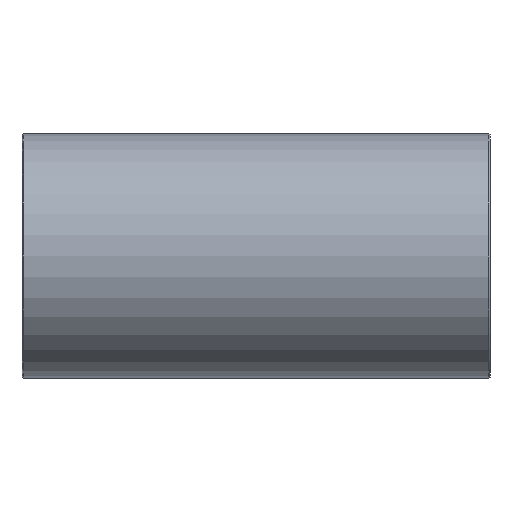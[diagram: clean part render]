
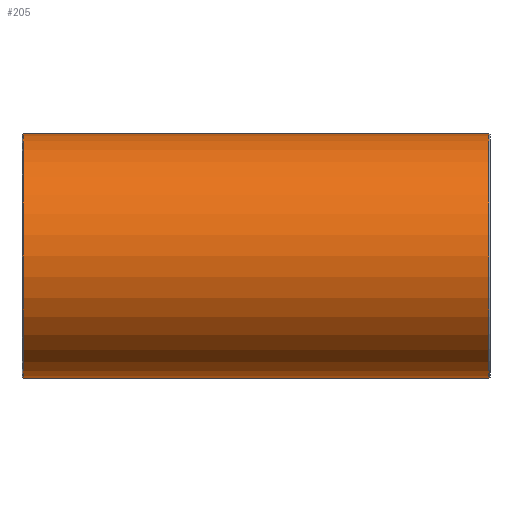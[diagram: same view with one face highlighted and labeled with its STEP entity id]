
A CAD part, front view. The second image highlights one B-rep face of the part: STEP entity #205.
In plain terms, the highlighted cylindrical face has radius 19.85 mm (diameter 39.7 mm), a full revolution.
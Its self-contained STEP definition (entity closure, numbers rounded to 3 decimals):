
#73=CARTESIAN_POINT('',(37.8,19.85,0.));
#74=VERTEX_POINT('',#73);
#75=CARTESIAN_POINT('',(37.8,0.0,0.0));
#76=DIRECTION('',(1.0,0.0,0.0));
#77=DIRECTION('',(0.0,-1.0,0.0));
#78=AXIS2_PLACEMENT_3D('',#75,#76,#77);
#79=CIRCLE('',#78,19.85);
#80=EDGE_CURVE('',#74,#74,#79,.T.);
#116=CARTESIAN_POINT('',(0.,0.0,0.0));
#117=DIRECTION('',(1.0,0.0,0.0));
#118=DIRECTION('',(0.0,1.0,0.0));
#119=AXIS2_PLACEMENT_3D('',#116,#117,#118);
#120=CYLINDRICAL_SURFACE('',#119,19.85);
#121=CARTESIAN_POINT('',(-37.8,19.85,0.));
#122=VERTEX_POINT('',#121);
#123=CARTESIAN_POINT('',(-37.8,0.0,0.0));
#124=DIRECTION('',(-1.0,0.0,0.0));
#125=DIRECTION('',(0.0,-1.0,0.0));
#126=AXIS2_PLACEMENT_3D('',#123,#124,#125);
#127=CIRCLE('',#126,19.85);
#128=EDGE_CURVE('',#122,#122,#127,.T.);
#129=ORIENTED_EDGE('',*,*,#128,.F.);
#130=EDGE_LOOP('',(#129));
#131=FACE_OUTER_BOUND('',#130,.T.);
#132=CARTESIAN_POINT('',(0.,14.296,13.772));
#133=VERTEX_POINT('',#132);
#134=CARTESIAN_POINT('',(0.,14.295,13.772));
#135=CARTESIAN_POINT('',(0.627,14.295,13.772));
#136=CARTESIAN_POINT('',(1.884,14.356,13.709));
#137=CARTESIAN_POINT('',(3.721,14.616,13.434));
#138=CARTESIAN_POINT('',(5.475,15.013,12.992));
#139=CARTESIAN_POINT('',(7.144,15.515,12.392));
#140=CARTESIAN_POINT('',(8.691,16.079,11.654));
#141=CARTESIAN_POINT('',(10.592,16.872,10.503));
#142=CARTESIAN_POINT('',(12.41,17.753,8.971));
#143=CARTESIAN_POINT('',(13.988,18.589,7.046));
#144=CARTESIAN_POINT('',(14.892,19.094,5.499));
#145=CARTESIAN_POINT('',(15.446,19.41,4.195));
#146=CARTESIAN_POINT('',(15.889,19.667,2.843));
#147=CARTESIAN_POINT('',(16.151,19.821,1.43));
#148=CARTESIAN_POINT('',(16.216,19.86,0.01));
#149=CARTESIAN_POINT('',(16.168,19.831,-1.062));
#150=CARTESIAN_POINT('',(16.023,19.746,-2.122));
#151=CARTESIAN_POINT('',(15.784,19.606,-3.16));
#152=CARTESIAN_POINT('',(15.453,19.414,-4.18));
#153=CARTESIAN_POINT('',(15.033,19.175,-5.167));
#154=CARTESIAN_POINT('',(14.531,18.892,-6.116));
#155=CARTESIAN_POINT('',(13.768,18.473,-7.312));
#156=CARTESIAN_POINT('',(12.637,17.873,-8.695));
#157=CARTESIAN_POINT('',(11.198,17.165,-9.999));
#158=CARTESIAN_POINT('',(9.802,16.539,-10.991));
#159=CARTESIAN_POINT('',(8.521,16.015,-11.738));
#160=CARTESIAN_POINT('',(6.672,15.349,-12.605));
#161=CARTESIAN_POINT('',(4.669,14.791,-13.245));
#162=CARTESIAN_POINT('',(2.641,14.454,-13.607));
#163=CARTESIAN_POINT('',(1.264,14.323,-13.743));
#164=CARTESIAN_POINT('',(-0.413,14.268,-13.8));
#165=CARTESIAN_POINT('',(-2.083,14.376,-13.689));
#166=CARTESIAN_POINT('',(-3.711,14.628,-13.419));
#167=CARTESIAN_POINT('',(-5.281,14.96,-13.051));
#168=CARTESIAN_POINT('',(-7.143,15.502,-12.416));
#169=CARTESIAN_POINT('',(-9.194,16.272,-11.397));
#170=CARTESIAN_POINT('',(-11.013,17.074,-10.164));
#171=CARTESIAN_POINT('',(-12.36,17.736,-8.947));
#172=CARTESIAN_POINT('',(-13.308,18.229,-7.874));
#173=CARTESIAN_POINT('',(-14.022,18.611,-6.931));
#174=CARTESIAN_POINT('',(-14.712,18.993,-5.821));
#175=CARTESIAN_POINT('',(-15.33,19.343,-4.527));
#176=CARTESIAN_POINT('',(-15.869,19.655,-2.951));
#177=CARTESIAN_POINT('',(-16.15,19.821,-1.432));
#178=CARTESIAN_POINT('',(-16.216,19.86,-0.002));
#179=CARTESIAN_POINT('',(-16.168,19.831,1.063));
#180=CARTESIAN_POINT('',(-16.023,19.746,2.124));
#181=CARTESIAN_POINT('',(-15.701,19.558,3.518));
#182=CARTESIAN_POINT('',(-15.077,19.197,5.179));
#183=CARTESIAN_POINT('',(-14.175,18.693,6.728));
#184=CARTESIAN_POINT('',(-13.312,18.231,7.87));
#185=CARTESIAN_POINT('',(-12.486,17.802,8.805));
#186=CARTESIAN_POINT('',(-11.437,17.281,9.792));
#187=CARTESIAN_POINT('',(-10.121,16.675,10.788));
#188=CARTESIAN_POINT('',(-8.688,16.078,11.655));
#189=CARTESIAN_POINT('',(-6.637,15.33,12.634));
#190=CARTESIAN_POINT('',(-4.328,14.701,13.344));
#191=CARTESIAN_POINT('',(-1.888,14.357,13.709));
#192=CARTESIAN_POINT('',(-0.627,14.295,13.772));
#193=CARTESIAN_POINT('',(0.,14.295,13.772));
#194=CARTESIAN_POINT('',(0.,14.295,13.772));
#195=CARTESIAN_POINT('',(0.,14.295,13.772));
#196=CARTESIAN_POINT('',(0.,14.295,13.772));
#197=B_SPLINE_CURVE_WITH_KNOTS('',3,(#134,#135,#136,#137,#138,#139,#140,#141,#142,#143,#144,#145,#146,#147,#148,#149,#150,#151,#152,#153,#154,#155,#156,#157,#158,#159,#160,#161,#162,#163,#164,#165,#166,#167,#168,#169,#170,#171,#172,#173,#174,#175,#176,#177,#178,#179,#180,#181,#182,#183,#184,#185,#186,#187,#188,#189,#190,#191,#192,#193,#194,#195,#196),.UNSPECIFIED.,.T.,.U.,(4,1,1,1,1,1,1,1,1,1,1,1,1,1,1,1,1,1,1,1,1,1,1,1,1,1,1,1,1,1,1,1,1,1,1,1,1,1,1,1,1,1,1,1,1,1,1,1,1,1,1,1,1,1,1,1,1,3,4),(-7.94,-7.798,-7.656,-7.514,-7.373,-7.231,-7.089,-6.805,-6.616,-6.427,-6.333,-6.238,-6.049,-5.955,-5.86,-5.766,-5.671,-5.577,-5.482,-5.388,-5.293,-5.104,-4.915,-4.789,-4.663,-4.537,-4.285,-4.159,-4.064,-3.97,-3.781,-3.686,-3.592,-3.403,-3.214,-3.025,-2.836,-2.741,-2.647,-2.521,-2.395,-2.268,-2.079,-1.985,-1.89,-1.796,-1.701,-1.512,-1.323,-1.229,-1.134,-0.992,-0.851,-0.709,-0.567,-0.284,-0.142,0.0,0.),.UNSPECIFIED.);
#198=EDGE_CURVE('',#133,#133,#197,.T.);
#199=ORIENTED_EDGE('',*,*,#198,.F.);
#200=EDGE_LOOP('',(#199));
#201=FACE_BOUND('',#200,.T.);
#202=ORIENTED_EDGE('',*,*,#80,.F.);
#203=EDGE_LOOP('',(#202));
#204=FACE_BOUND('',#203,.T.);
#205=ADVANCED_FACE('',(#131,#201,#204),#120,.T.);
